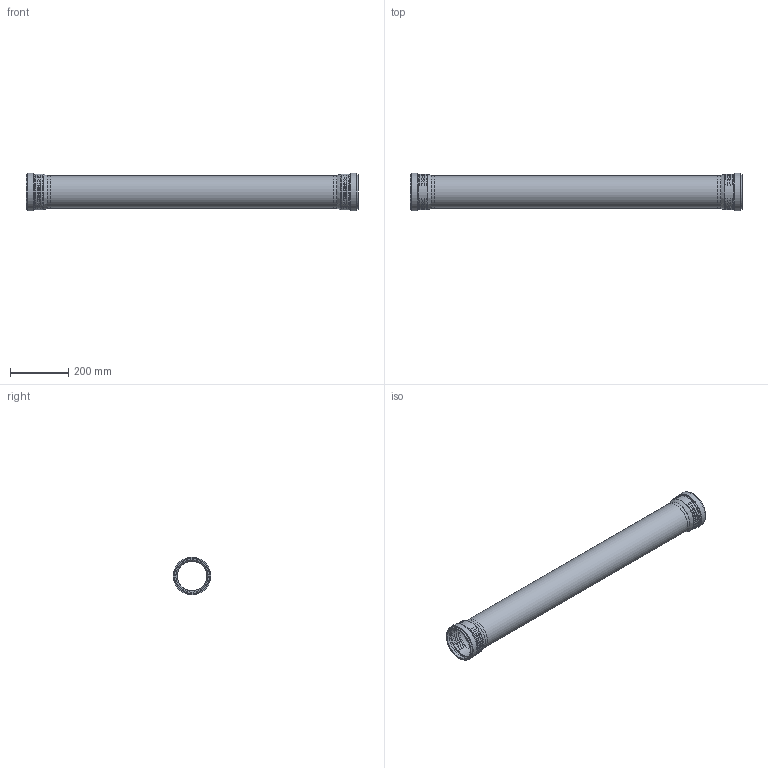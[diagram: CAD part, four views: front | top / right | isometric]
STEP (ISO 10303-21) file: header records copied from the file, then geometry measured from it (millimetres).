
FILE_DESCRIPTION(/* description */ (''),/* implementation_level */ '2;1');
FILE_NAME(/* name */ 'H:\Geberit-Teile\Export\PP_Rohr 2 Muffen_TEST\stp\393511.stp',/* time_stamp */ '2017-02-13T17:11:30+01:00',/* author */ ('seihe2'),/* organization */ (''),/* preprocessor_version */ 'ST-DEVELOPER v15.2',/* originating_system */ 'Autodesk Inventor 2014',/* authorisation */ '');
FILE_SCHEMA (('AUTOMOTIVE_DESIGN { 1 0 10303 214 3 1 1 }'));
Length unit declared in the file: millimetre
Products named in the file (1): 393511
Bounding box: 1136.2 x 128.7 x 128.7 mm (x, y, z)
Volume: 1765625.7 mm3; surface area: 807097.5 mm2
Topology: 3 solids, 3 shells, 70 faces, 152 edges, 106 vertices
Faces by surface type: torus 34, cylinder 18, plane 14, bspline 2, cone 2
Full cylindrical faces by diameter (mm): 101.2 x3, 110.2 x3, 111.1 x2, 113.7 x2, 119.5 x2, 121.3 x2, 122.1 x2, 128.7 x2
Entity records: 4068 total; most frequent: CARTESIAN_POINT 2649, ORIENTED_EDGE 236, DIRECTION 234, EDGE_LOOP 126, EDGE_CURVE 118, AXIS2_PLACEMENT_3D 117, VERTEX_POINT 104, STYLED_ITEM 73
